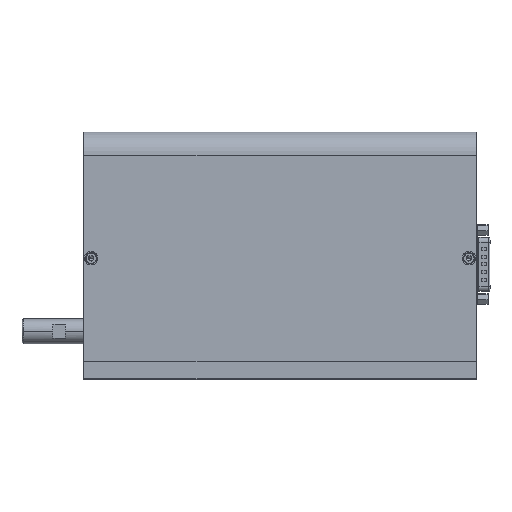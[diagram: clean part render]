
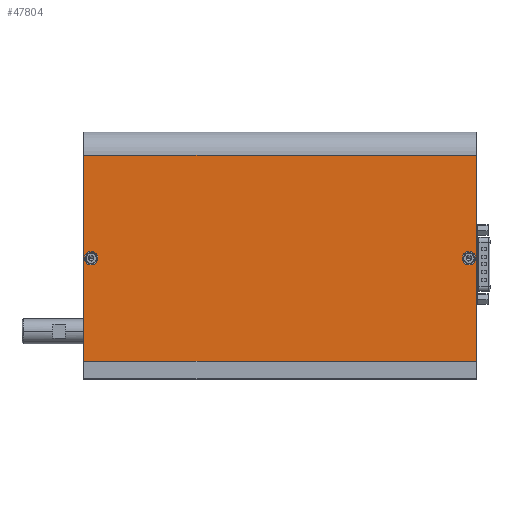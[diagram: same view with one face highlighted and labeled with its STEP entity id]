
A CAD part, top view. The second image highlights one B-rep face of the part: STEP entity #47804.
In plain terms, the highlighted planar face has unit normal (0, 0, 1).
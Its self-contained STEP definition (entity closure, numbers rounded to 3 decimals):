
#541 = CARTESIAN_POINT ( 'NONE',  ( 0., 8.854, 20. ) ) ;
#650 = EDGE_LOOP ( 'NONE', ( #54307, #20652 ) ) ;
#1875 = ORIENTED_EDGE ( 'NONE', *, *, #38843, .F. ) ;
#2208 = CARTESIAN_POINT ( 'NONE',  ( 190., 108.654, 20. ) ) ;
#6597 = EDGE_CURVE ( 'NONE', #30719, #10604, #23021, .T. ) ;
#7976 = ORIENTED_EDGE ( 'NONE', *, *, #37420, .T. ) ;
#8238 = AXIS2_PLACEMENT_3D ( 'NONE', #31404, #42456, #53511 ) ;
#9024 = DIRECTION ( 'NONE',  ( -1., 0., 0. ) ) ;
#9642 = EDGE_CURVE ( 'NONE', #10604, #30719, #20207, .T. ) ;
#10604 = VERTEX_POINT ( 'NONE', #54714 ) ;
#12053 = FACE_OUTER_BOUND ( 'NONE', #50737, .T. ) ;
#12420 = AXIS2_PLACEMENT_3D ( 'NONE', #47016, #27286, #36657 ) ;
#12635 = CARTESIAN_POINT ( 'NONE',  ( 190., 8.854, 20. ) ) ;
#13875 = EDGE_CURVE ( 'NONE', #42091, #43699, #14152, .T. ) ;
#14152 = LINE ( 'NONE', #40474, #62561 ) ;
#15008 = VERTEX_POINT ( 'NONE', #21278 ) ;
#15388 = EDGE_CURVE ( 'NONE', #45793, #41378, #22117, .T. ) ;
#16267 = VERTEX_POINT ( 'NONE', #66905 ) ;
#16798 = VECTOR ( 'NONE', #9024, 1000. ) ;
#19712 = ORIENTED_EDGE ( 'NONE', *, *, #13875, .F. ) ;
#20207 = CIRCLE ( 'NONE', #12420, 3.25 ) ;
#20652 = ORIENTED_EDGE ( 'NONE', *, *, #63282, .F. ) ;
#21278 = CARTESIAN_POINT ( 'NONE',  ( 190., 108.654, 20. ) ) ;
#21925 = CARTESIAN_POINT ( 'NONE',  ( 0.25, 58.854, 20. ) ) ;
#22117 = CIRCLE ( 'NONE', #52995, 3.25 ) ;
#22148 = PLANE ( 'NONE',  #52862 ) ;
#23021 = CIRCLE ( 'NONE', #30755, 3.25 ) ;
#23735 = VECTOR ( 'NONE', #34107, 1000. ) ;
#25960 = CIRCLE ( 'NONE', #8238, 3.25 ) ;
#26015 = DIRECTION ( 'NONE',  ( 1., 0., 0. ) ) ;
#27286 = DIRECTION ( 'NONE',  ( 0., 0., 1. ) ) ;
#27358 = CARTESIAN_POINT ( 'NONE',  ( 3.5, 58.854, 20. ) ) ;
#27661 = DIRECTION ( 'NONE',  ( 1., 0., 0. ) ) ;
#27910 = DIRECTION ( 'NONE',  ( 0., -1., 0. ) ) ;
#30719 = VERTEX_POINT ( 'NONE', #61381 ) ;
#30755 = AXIS2_PLACEMENT_3D ( 'NONE', #65794, #31227, #26015 ) ;
#31122 = DIRECTION ( 'NONE',  ( 0., 1., 0. ) ) ;
#31227 = DIRECTION ( 'NONE',  ( 0., 0., 1. ) ) ;
#31404 = CARTESIAN_POINT ( 'NONE',  ( 3.5, 58.854, 20. ) ) ;
#33533 = DIRECTION ( 'NONE',  ( 0., 0., 1. ) ) ;
#34107 = DIRECTION ( 'NONE',  ( -1., 0., 0. ) ) ;
#35819 = ORIENTED_EDGE ( 'NONE', *, *, #9642, .F. ) ;
#36657 = DIRECTION ( 'NONE',  ( 1., 0., 0. ) ) ;
#37420 = EDGE_CURVE ( 'NONE', #15008, #43699, #40327, .T. ) ;
#38843 = EDGE_CURVE ( 'NONE', #15008, #16267, #44815, .T. ) ;
#39069 = FACE_BOUND ( 'NONE', #64688, .T. ) ;
#40327 = LINE ( 'NONE', #2208, #23735 ) ;
#40474 = CARTESIAN_POINT ( 'NONE',  ( 0., 8.854, 20. ) ) ;
#41378 = VERTEX_POINT ( 'NONE', #21925 ) ;
#42091 = VERTEX_POINT ( 'NONE', #541 ) ;
#42456 = DIRECTION ( 'NONE',  ( 0., 0., 1. ) ) ;
#43699 = VERTEX_POINT ( 'NONE', #67901 ) ;
#44815 = LINE ( 'NONE', #12635, #65812 ) ;
#45793 = VERTEX_POINT ( 'NONE', #63260 ) ;
#46385 = CARTESIAN_POINT ( 'NONE',  ( 0., 8.854, 20. ) ) ;
#47016 = CARTESIAN_POINT ( 'NONE',  ( 186.5, 58.854, 20. ) ) ;
#47804 = ADVANCED_FACE ( 'NONE', ( #64298, #39069, #12053 ), #22148, .T. ) ;
#48444 = DIRECTION ( 'NONE',  ( 0., 0., 1. ) ) ;
#48890 = ORIENTED_EDGE ( 'NONE', *, *, #6597, .F. ) ;
#50737 = EDGE_LOOP ( 'NONE', ( #1875, #7976, #19712, #68467 ) ) ;
#52862 = AXIS2_PLACEMENT_3D ( 'NONE', #60118, #33533, #27661 ) ;
#52995 = AXIS2_PLACEMENT_3D ( 'NONE', #27358, #48444, #57807 ) ;
#53358 = EDGE_CURVE ( 'NONE', #16267, #42091, #56071, .T. ) ;
#53511 = DIRECTION ( 'NONE',  ( 1., 0., 0. ) ) ;
#54307 = ORIENTED_EDGE ( 'NONE', *, *, #15388, .F. ) ;
#54714 = CARTESIAN_POINT ( 'NONE',  ( 189.75, 58.854, 20. ) ) ;
#56071 = LINE ( 'NONE', #46385, #16798 ) ;
#57807 = DIRECTION ( 'NONE',  ( 1., 0., 0. ) ) ;
#60118 = CARTESIAN_POINT ( 'NONE',  ( 0., 8.854, 20. ) ) ;
#61381 = CARTESIAN_POINT ( 'NONE',  ( 183.25, 58.854, 20. ) ) ;
#62561 = VECTOR ( 'NONE', #31122, 1000. ) ;
#63260 = CARTESIAN_POINT ( 'NONE',  ( 6.75, 58.854, 20. ) ) ;
#63282 = EDGE_CURVE ( 'NONE', #41378, #45793, #25960, .T. ) ;
#64298 = FACE_BOUND ( 'NONE', #650, .T. ) ;
#64688 = EDGE_LOOP ( 'NONE', ( #35819, #48890 ) ) ;
#65794 = CARTESIAN_POINT ( 'NONE',  ( 186.5, 58.854, 20. ) ) ;
#65812 = VECTOR ( 'NONE', #27910, 1000. ) ;
#66905 = CARTESIAN_POINT ( 'NONE',  ( 190., 8.854, 20. ) ) ;
#67901 = CARTESIAN_POINT ( 'NONE',  ( 0., 108.654, 20. ) ) ;
#68467 = ORIENTED_EDGE ( 'NONE', *, *, #53358, .F. ) ;
